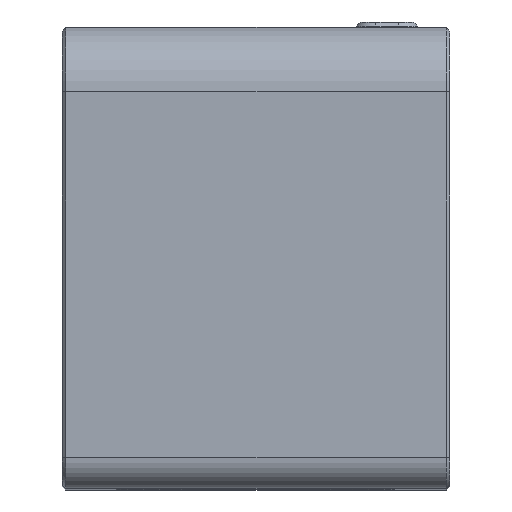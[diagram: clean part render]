
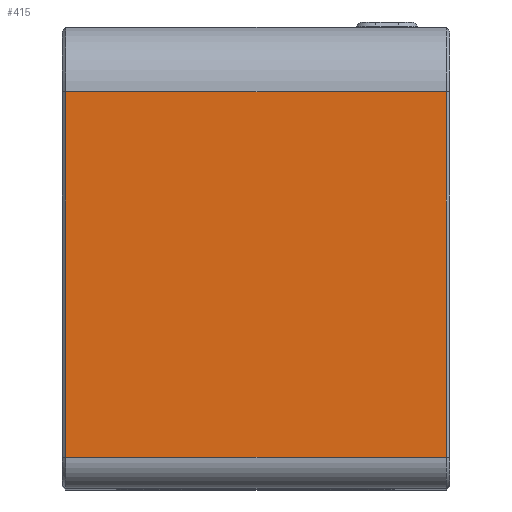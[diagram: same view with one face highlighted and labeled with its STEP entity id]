
A CAD part, top view. The second image highlights one B-rep face of the part: STEP entity #415.
In plain terms, the highlighted planar face has unit normal (0, 0, 1).
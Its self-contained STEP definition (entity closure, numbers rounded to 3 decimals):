
#415=ADVANCED_FACE('',(#1428),#16256,.T.);
#1428=FACE_OUTER_BOUND('',#2457,.T.);
#2457=EDGE_LOOP('',(#3969,#3970,#3971,#3972));
#3969=ORIENTED_EDGE('',*,*,#8952,.F.);
#3970=ORIENTED_EDGE('',*,*,#8953,.F.);
#3971=ORIENTED_EDGE('',*,*,#8897,.F.);
#3972=ORIENTED_EDGE('',*,*,#8951,.T.);
#8897=EDGE_CURVE('',#14691,#14692,#11409,.T.);
#8951=EDGE_CURVE('',#14691,#14730,#11440,.T.);
#8952=EDGE_CURVE('',#14722,#14730,#11441,.T.);
#8953=EDGE_CURVE('',#14692,#14722,#11442,.T.);
#11409=B_SPLINE_CURVE_WITH_KNOTS('',1,(#25412,#25413),.UNSPECIFIED.,.F.,
 .F.,(2,2),(-20.6,0.),.UNSPECIFIED.);
#11440=B_SPLINE_CURVE_WITH_KNOTS('',1,(#25543,#25544),.UNSPECIFIED.,.F.,
 .F.,(2,2),(0.,19.8),.UNSPECIFIED.);
#11441=B_SPLINE_CURVE_WITH_KNOTS('',1,(#25545,#25546),.UNSPECIFIED.,.F.,
 .F.,(2,2),(0.,20.6),.UNSPECIFIED.);
#11442=B_SPLINE_CURVE_WITH_KNOTS('',1,(#25547,#25548),.UNSPECIFIED.,.F.,
 .F.,(2,2),(-19.8,0.),.UNSPECIFIED.);
#14691=VERTEX_POINT('',#25125);
#14692=VERTEX_POINT('',#25126);
#14722=VERTEX_POINT('',#25156);
#14730=VERTEX_POINT('',#25164);
#16256=PLANE('',#17391);
#17391=AXIS2_PLACEMENT_3D('',#23917,#18953,$);
#18953=DIRECTION('',(0.,0.,1.));
#23917=CARTESIAN_POINT('',(25.453,11.073,35.));
#25125=CARTESIAN_POINT('',(2.7,9.,35.));
#25126=CARTESIAN_POINT('',(23.3,9.,35.));
#25156=CARTESIAN_POINT('',(23.3,-10.8,35.));
#25164=CARTESIAN_POINT('',(2.7,-10.8,35.));
#25412=CARTESIAN_POINT('',(2.7,9.,35.));
#25413=CARTESIAN_POINT('',(23.3,9.,35.));
#25543=CARTESIAN_POINT('',(2.7,9.,35.));
#25544=CARTESIAN_POINT('',(2.7,-10.8,35.));
#25545=CARTESIAN_POINT('',(23.3,-10.8,35.));
#25546=CARTESIAN_POINT('',(2.7,-10.8,35.));
#25547=CARTESIAN_POINT('',(23.3,9.,35.));
#25548=CARTESIAN_POINT('',(23.3,-10.8,35.));
